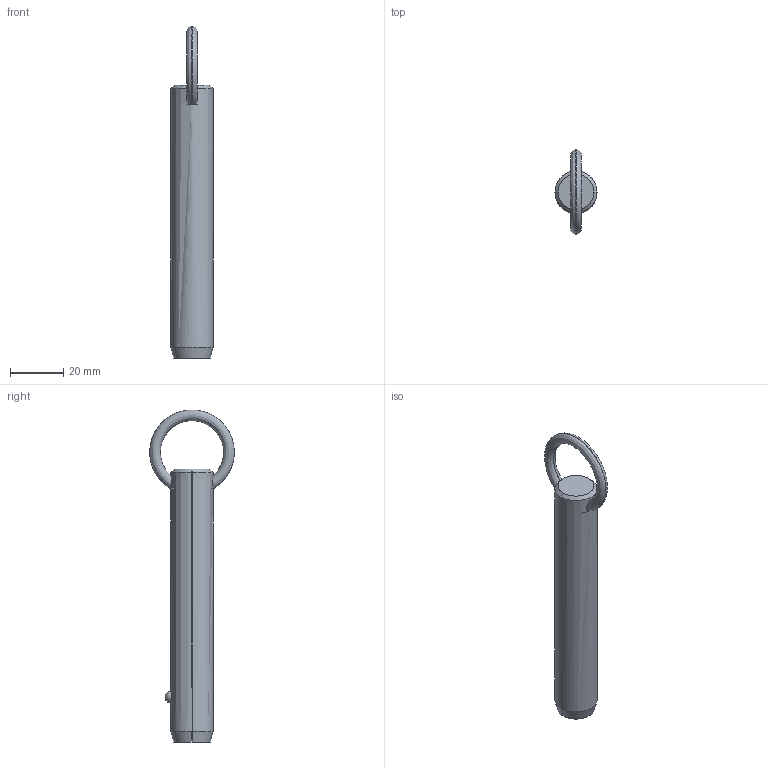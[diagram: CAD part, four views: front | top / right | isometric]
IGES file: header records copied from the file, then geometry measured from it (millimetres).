
Start section: SolidWorks IGES file using analytic representation for surfaces
Global section: file name: C:\Users\liam_\OneDrive\Documents\WORK\Work for WixRoyd\Job Files\J-00019 - Matt Davis CAD Checking\04. CAD Drawings\automotion20190605\P1250.2_v2\P1250.2_v2_20190729_IGES\P1250.062-290.igs; native system: SolidWorks 2017; preprocessor: SolidWorks 2017; author: liam_; date: 190729.233412; units: millimetre
Bounding box: 15.8 x 31.7 x 124.39 mm (x, y, z)
Surface area: 6246.8 mm2 (no closed solid volume)
Topology: 0 solids, 0 shells, 12 faces, 292 edges, 290 vertices
Faces by surface type: revolution 8, bspline 4
